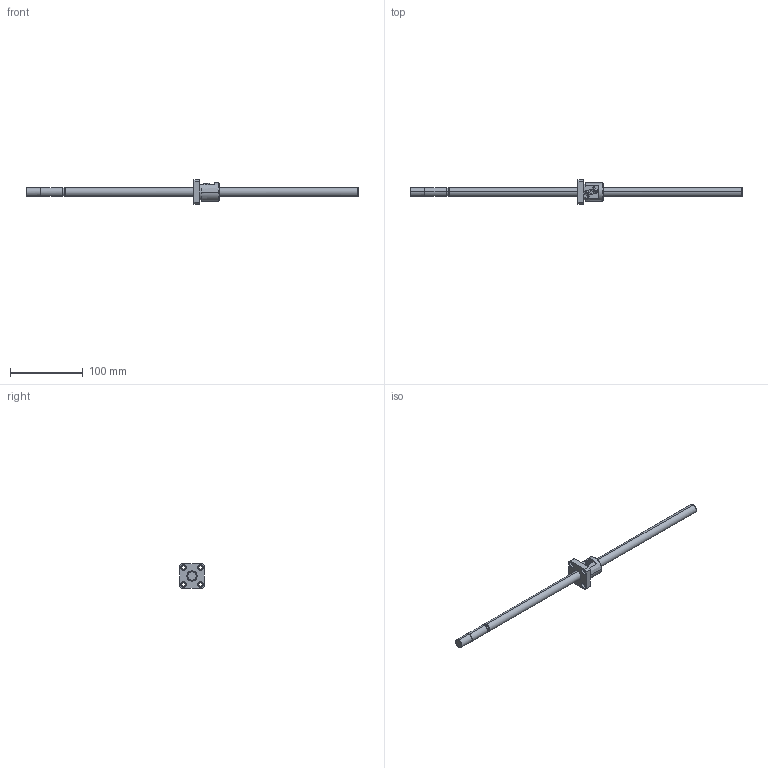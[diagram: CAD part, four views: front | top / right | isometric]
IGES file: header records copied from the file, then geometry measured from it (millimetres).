
Global section: file name: No Iges File Name specified; native system: AutoDesk Inventor R10; preprocessor: AutoDesk Inventor Iges Exporter R10; author: No Author specified; organization: No Organization specified; date: 20101224.140007; units: millimetre
Bounding box: 455 x 34 x 34 mm (x, y, z)
Surface area: 24761 mm2 (no closed solid volume)
Topology: 0 solids, 0 shells, 124 faces, 914 edges, 914 vertices
Faces by surface type: bspline 124
